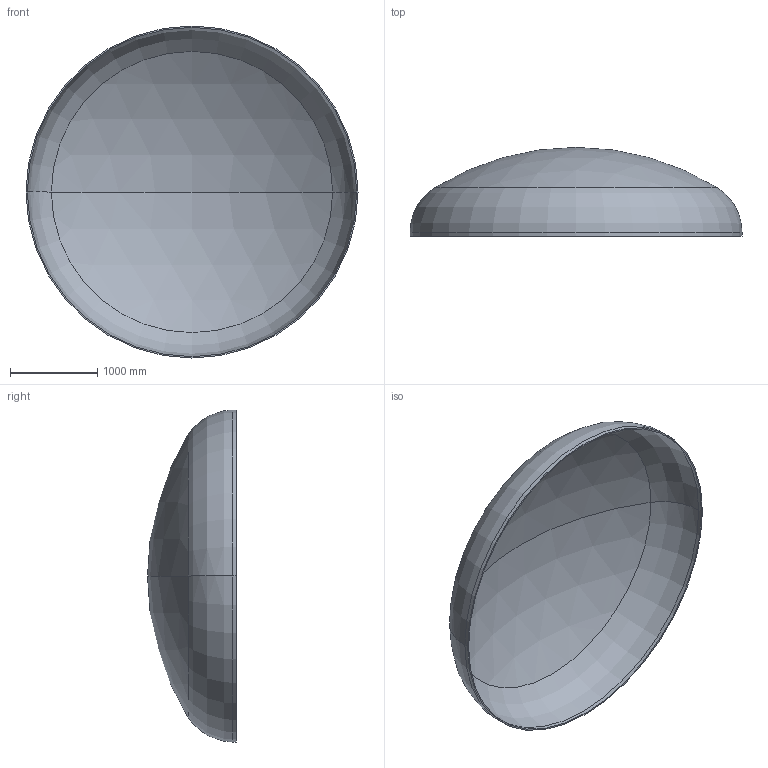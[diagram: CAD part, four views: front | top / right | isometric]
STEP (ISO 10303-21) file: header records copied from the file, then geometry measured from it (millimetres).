
FILE_DESCRIPTION (( 'STEP AP203' ), '1' );
FILE_NAME ('DIN 28013 Korbbogenform_-_Boden DIN 28013 - 3800 x 45 - I - s=15.step', '2016-07-01T21:05:02', ( '' ), ( '' ), 'SwSTEP 2.0', 'SolidWorks 2013', '' );
FILE_SCHEMA (( 'CONFIG_CONTROL_DESIGN' ));
Length unit declared in the file: millimetre
Products named in the file (1): DIN 28013 Korbbogenform_-_Boden DIN 28013 - 3800 x 45 - I - s=15
Bounding box: 3800 x 1017.45 x 3800 mm (x, y, z)
Volume: 242406623.5 mm3; surface area: 32499705.3 mm2
Topology: 1 solids, 1 shells, 13 faces, 24 edges, 14 vertices
Faces by surface type: torus 4, cylinder 4, sphere 4, plane 1
Entity records: 407 total; most frequent: DIRECTION 72, CARTESIAN_POINT 52, ORIENTED_EDGE 48, AXIS2_PLACEMENT_3D 34, EDGE_CURVE 24, CIRCLE 20, EDGE_LOOP 14, VERTEX_POINT 14
